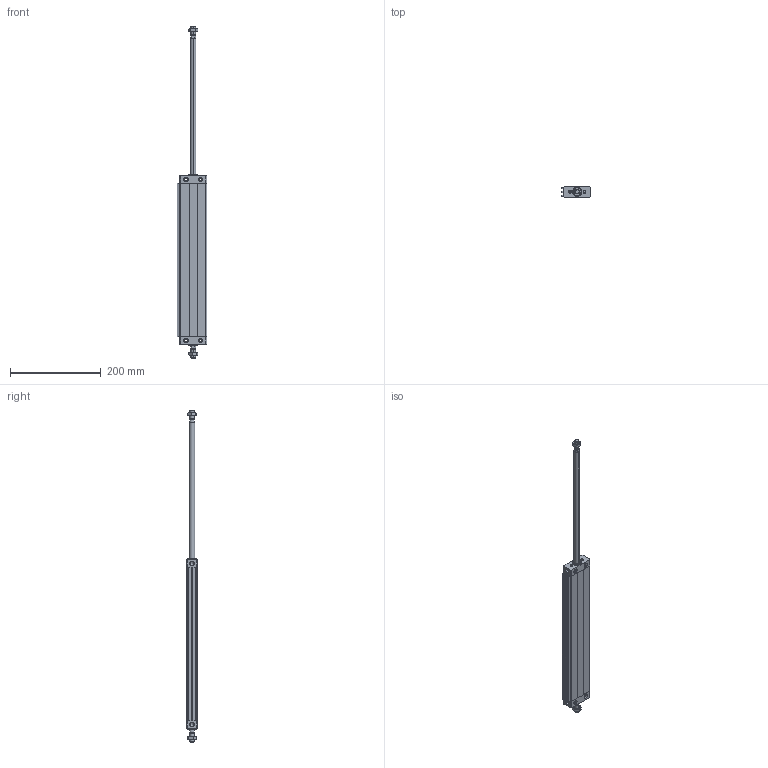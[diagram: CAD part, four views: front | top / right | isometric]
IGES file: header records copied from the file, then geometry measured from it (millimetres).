
Global section: file name: No Iges File Name specified; native system: Autodesk Inventor 2011; preprocessor: AutoDesk Inventor Iges Exporter R2011; author: airolcr1; date: 20101213.153056; units: millimetre
Bounding box: 65.5 x 24 x 732 mm (x, y, z)
Volume: 350383.7 mm3; surface area: 158675.8 mm2
Topology: 6 solids, 6 shells, 274 faces, 646 edges, 392 vertices
Faces by surface type: bspline 110, plane 96, cone 36, cylinder 18, revolution 14
